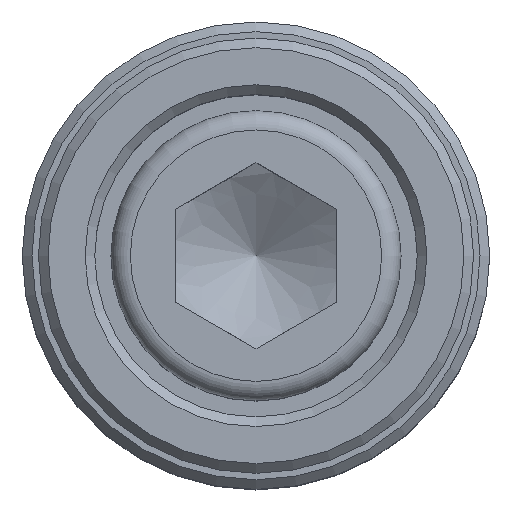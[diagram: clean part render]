
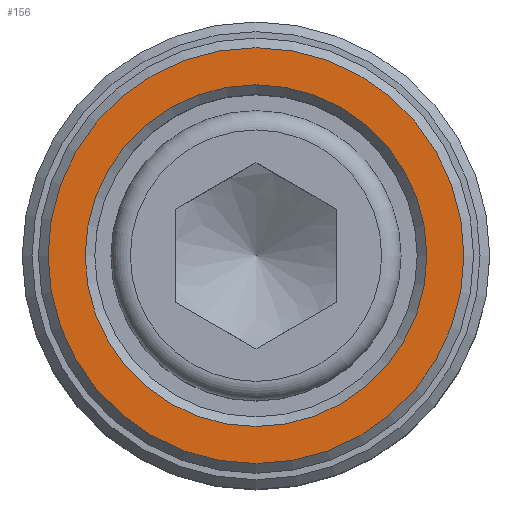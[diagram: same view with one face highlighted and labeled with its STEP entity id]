
A CAD part, top view. The second image highlights one B-rep face of the part: STEP entity #156.
In plain terms, the highlighted planar face has unit normal (0, 0, 1).
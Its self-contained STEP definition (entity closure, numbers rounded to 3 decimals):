
#156=ADVANCED_FACE('',(#777,#779),#781,.F.);
#777=FACE_BOUND('',#778,.T.);
#778=EDGE_LOOP('',(#1303));
#779=FACE_BOUND('',#780,.T.);
#780=EDGE_LOOP('',(#1304));
#781=PLANE('',#782);
#782=AXIS2_PLACEMENT_3D('',#783,#784,#785);
#783=CARTESIAN_POINT('',(0.,0.,29.));
#784=DIRECTION('',(0.,0.,-1.));
#785=DIRECTION('',(1.,0.,0.));
#1303=ORIENTED_EDGE('',*,*,#1455,.T.);
#1304=ORIENTED_EDGE('',*,*,#1446,.F.);
#1446=EDGE_CURVE('',#1537,#1537,#1538,.F.);
#1455=EDGE_CURVE('',#1555,#1555,#1556,.T.);
#1537=VERTEX_POINT('',#1723);
#1538=CIRCLE('',#1724,10.6);
#1555=VERTEX_POINT('',#1762);
#1556=CIRCLE('',#1763,12.9);
#1723=CARTESIAN_POINT('',(0.,10.6,29.));
#1724=AXIS2_PLACEMENT_3D('',#1725,#1726,#1727);
#1725=CARTESIAN_POINT('',(0.,0.,29.));
#1726=DIRECTION('',(0.,0.,-1.));
#1727=DIRECTION('',(0.,1.,0.));
#1762=CARTESIAN_POINT('',(12.9,0.,29.));
#1763=AXIS2_PLACEMENT_3D('',#1764,#1765,#1766);
#1764=CARTESIAN_POINT('',(0.,0.,29.));
#1765=DIRECTION('',(0.,0.,1.));
#1766=DIRECTION('',(1.,0.,0.));
